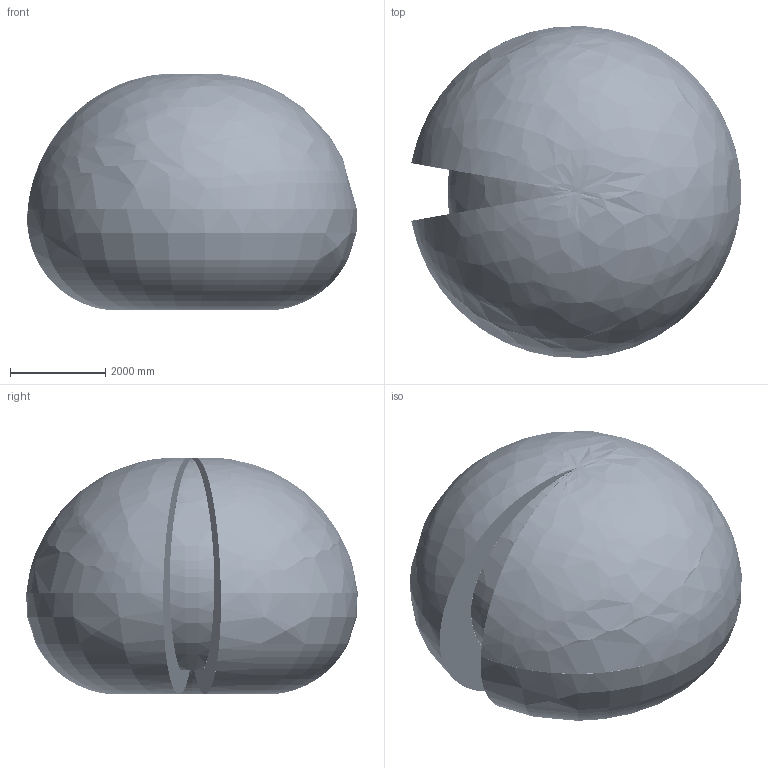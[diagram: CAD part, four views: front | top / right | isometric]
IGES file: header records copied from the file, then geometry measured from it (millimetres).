
Start section: SolidWorks IGES file using analytic representation for surfaces
Global section: file name: C:\Users\SEAMSTO1\OneDrive - ABB\PT\Macro\IGES\IRB6760_150kg-350_OC_00_IGES_J\IRB6760_150kg-350_OC_00_ASM_CAD.igs; native system: SolidWorks 2024; preprocessor: SolidWorks 2024; author: SEAMSTO1; date: 250930.150605; units: millimetre
Bounding box: 6937.15 x 6982.26 x 4983.33 mm (x, y, z)
Surface area: 183644937.3 mm2 (no closed solid volume)
Topology: 0 solids, 0 shells, 7792 faces, 127877 edges, 127699 vertices
Faces by surface type: bspline 4433, revolution 3359
